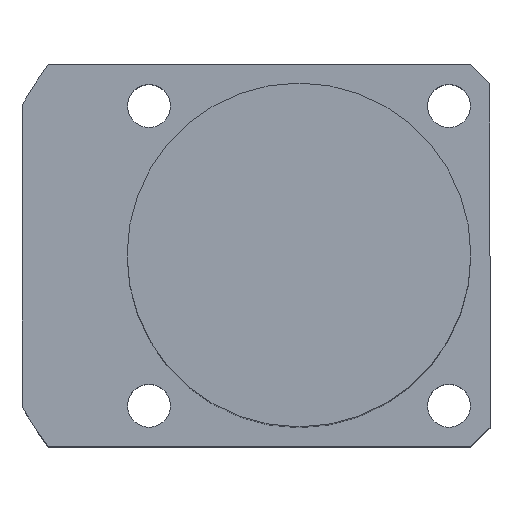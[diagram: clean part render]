
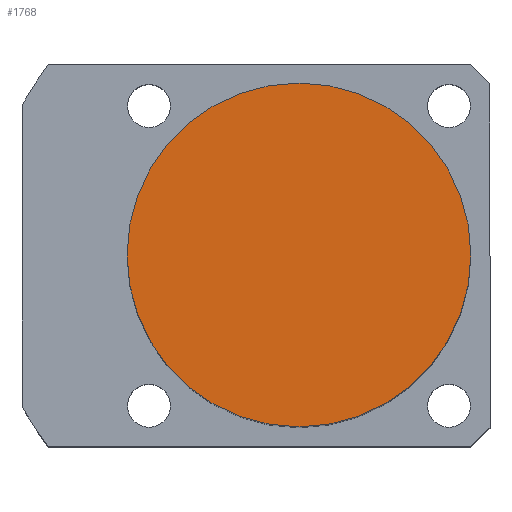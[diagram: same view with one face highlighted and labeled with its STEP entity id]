
A CAD part, top view. The second image highlights one B-rep face of the part: STEP entity #1768.
In plain terms, the highlighted planar face has unit normal (0, 0, 1).
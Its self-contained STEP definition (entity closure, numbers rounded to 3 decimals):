
#4 = AXIS2_PLACEMENT_3D ( 'NONE', #1696, #911, #1035 ) ;
#149 = CARTESIAN_POINT ( 'NONE',  ( -18., 0., 63.5 ) ) ;
#159 = CIRCLE ( 'NONE', #552, 18. ) ;
#319 = EDGE_CURVE ( 'NONE', #338, #1635, #159, .T. ) ;
#338 = VERTEX_POINT ( 'NONE', #1036 ) ;
#387 = CIRCLE ( 'NONE', #1437, 18. ) ;
#552 = AXIS2_PLACEMENT_3D ( 'NONE', #1164, #1030, #1416 ) ;
#605 = ORIENTED_EDGE ( 'NONE', *, *, #319, .T. ) ;
#712 = DIRECTION ( 'NONE',  ( 1., 0., 0. ) ) ;
#900 = FACE_OUTER_BOUND ( 'NONE', #1123, .T. ) ;
#911 = DIRECTION ( 'NONE',  ( 0., 0., 1. ) ) ;
#1030 = DIRECTION ( 'NONE',  ( 0., 0., 1. ) ) ;
#1035 = DIRECTION ( 'NONE',  ( 1., 0., 0. ) ) ;
#1036 = CARTESIAN_POINT ( 'NONE',  ( 18., 0., 63.5 ) ) ;
#1123 = EDGE_LOOP ( 'NONE', ( #1263, #605 ) ) ;
#1164 = CARTESIAN_POINT ( 'NONE',  ( 0., 0., 63.5 ) ) ;
#1179 = PLANE ( 'NONE',  #4 ) ;
#1263 = ORIENTED_EDGE ( 'NONE', *, *, #1584, .T. ) ;
#1371 = CARTESIAN_POINT ( 'NONE',  ( 0., 0., 63.5 ) ) ;
#1416 = DIRECTION ( 'NONE',  ( 1., 0., 0. ) ) ;
#1437 = AXIS2_PLACEMENT_3D ( 'NONE', #1371, #1494, #712 ) ;
#1494 = DIRECTION ( 'NONE',  ( 0., 0., 1. ) ) ;
#1584 = EDGE_CURVE ( 'NONE', #1635, #338, #387, .T. ) ;
#1635 = VERTEX_POINT ( 'NONE', #149 ) ;
#1696 = CARTESIAN_POINT ( 'NONE',  ( 0., 0., 63.5 ) ) ;
#1768 = ADVANCED_FACE ( 'NONE', ( #900 ), #1179, .T. ) ;
